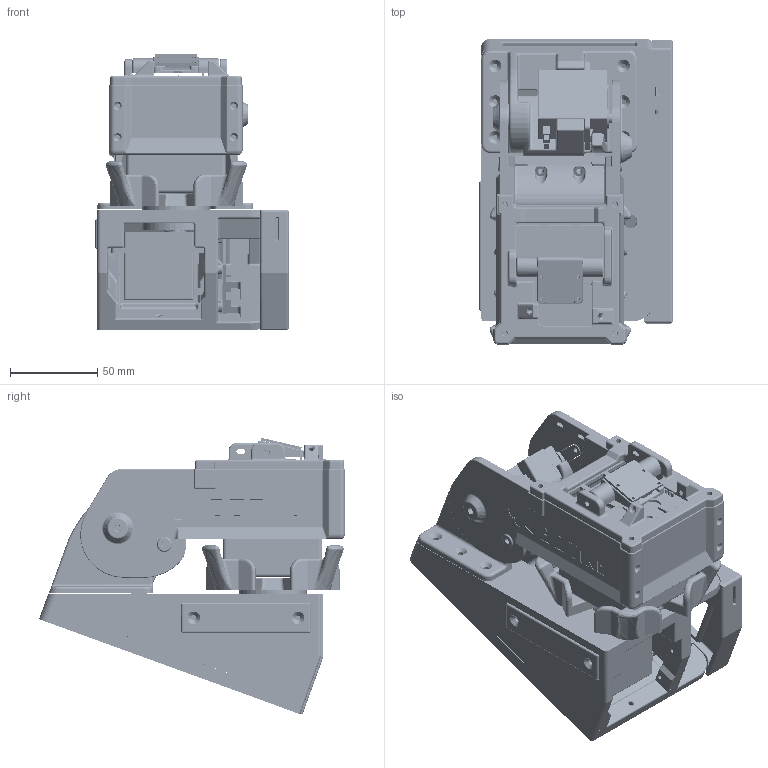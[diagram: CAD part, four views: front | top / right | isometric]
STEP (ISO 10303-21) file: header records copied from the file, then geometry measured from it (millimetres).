
FILE_DESCRIPTION(('STEP AP214'),'1');
FILE_NAME('AF_Cube_robot_rev9_step.stp','2024-06-01T09:56:37',(' '),(' '),'Spatial InterOp 3D',' ',' ');
FILE_SCHEMA(('AUTOMOTIVE_DESIGN { 1 0 10303 214 1 1 1 1 }'));
Length unit declared in the file: metre
Products named in the file (3): AF_Cube_robot_rev9_step; 3D_print_parts; Components
Assembly tree (2 placements, depth 2):
  AF_Cube_robot_rev9_step
    3D_print_parts
    Components
Bounding box: 111.2 x 175.81 x 158.86 mm (x, y, z)
Volume: 883628.2 mm3; surface area: 315902 mm2
Topology: 30 solids, 30 shells, 6313 faces, 16313 edges, 9941 vertices
Faces by surface type: cylinder 3349, plane 1428, torus 415, bspline 410, cone 360, extrusion 196, sphere 154, revolution 1
Entity records: 330082 total; most frequent: CARTESIAN_POINT 175537, DIRECTION 33202, ORIENTED_EDGE 32152, EDGE_CURVE 16076, AXIS2_PLACEMENT_3D 12803, VERTEX_POINT 9941, VECTOR 7595, LINE 7399
